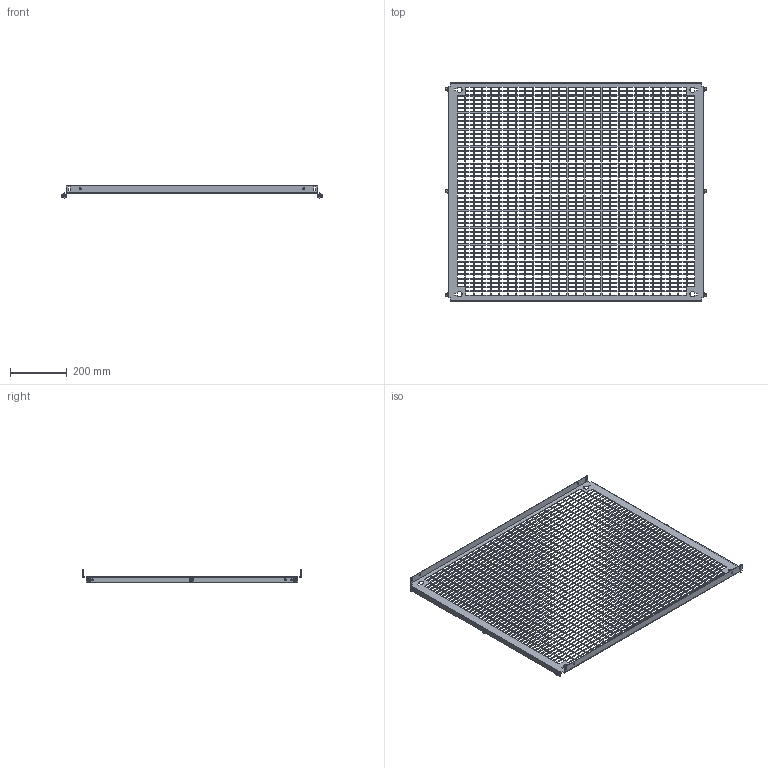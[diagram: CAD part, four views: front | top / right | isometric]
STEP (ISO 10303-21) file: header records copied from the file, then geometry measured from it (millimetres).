
FILE_DESCRIPTION(('Open CASCADE Model'),'2;1');
FILE_NAME('Open CASCADE Shape Model','2025-02-19T16:53:44',('Author'),( 'Open CASCADE'),'Open CASCADE STEP processor 7.8','Open CASCADE 7.8' ,'Unknown');
FILE_SCHEMA(('AUTOMOTIVE_DESIGN { 1 0 10303 214 1 1 1 1 }'));
Length unit declared in the file: millimetre
Products named in the file (4): Compound1; Solid1; Solid2; Solid3
Assembly tree (13 placements, depth 2):
  Compound1
    Solid1
    Solid2  x6
    Solid3  x6
Bounding box: 920 x 769 x 43 mm (x, y, z)
Volume: 743098.3 mm3; surface area: 952375.3 mm2
Topology: 13 solids, 13 shells, 5854 faces, 17306 edges, 11484 vertices
Faces by surface type: plane 5624, cone 102, bspline 72, cylinder 38, torus 18
Full cylindrical faces by diameter (mm): 5 x6, 6 x12, 7 x16
Entity records: 190412 total; most frequent: CARTESIAN_POINT 34099, ORIENTED_EDGE 33482, DIRECTION 27924, EDGE_CURVE 16741, LINE 16576, VECTOR 16576, VERTEX_POINT 11154, FACE_BOUND 8373
